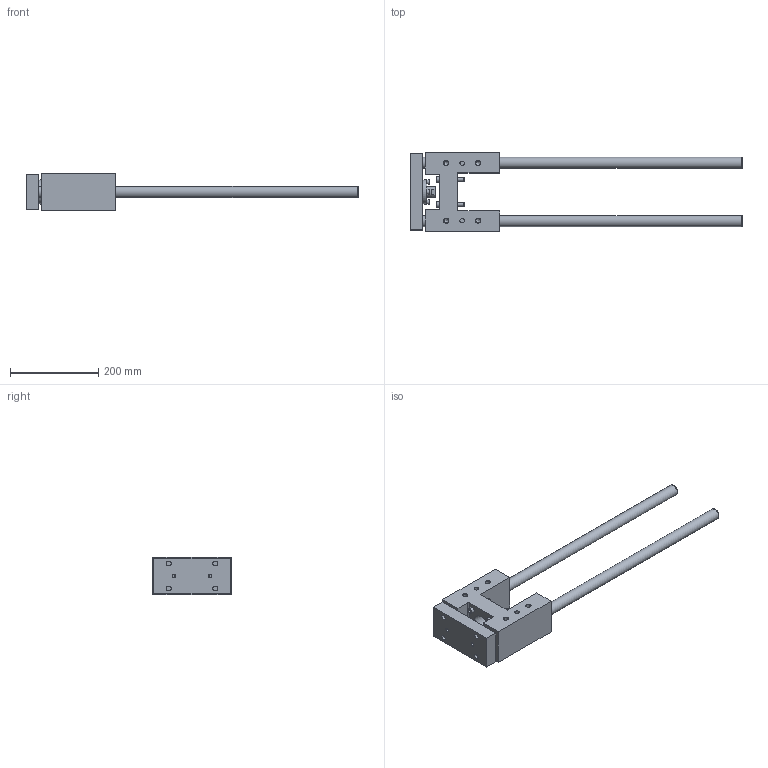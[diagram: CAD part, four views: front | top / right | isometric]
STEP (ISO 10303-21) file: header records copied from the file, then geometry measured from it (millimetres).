
FILE_DESCRIPTION( ( 'STEP AP214' ), '1' );
FILE_NAME( 'U:/Etudes/Top Solid/BIBLIO 3D AVM/TOP/PNEUMATIQUE/GUIDAGES/Type 32 (en H)/R_Renforcée/327R8_30.step', '2005-05-27T09:07:23', ( ' ' ), ( ' ' ), 'XStep 1.0', ' ', ' ' );
FILE_SCHEMA( ( 'automotive_design' ) );
Length unit declared in the file: metre
Products named in the file (2): 1; 2
Bounding box: 751 x 178 x 85 mm (x, y, z)
Volume: 2505474.5 mm3; surface area: 333305.6 mm2
Topology: 2 solids, 7 shells, 209 faces, 484 edges, 321 vertices
Faces by surface type: plane 118, cylinder 70, cone 21
Full cylindrical faces by diameter (mm): 6 x8, 6.5 x4, 8 x10, 8.376 x4, 9 x4, 10 x6, 10.106 x8, 11 x4, 13 x4, 14.376 x2, 18 x4, 24 x1, 25 x4, 26 x1, 34 x1, 37 x1, 45 x1, 55 x1
Entity records: 7089 total; most frequent: CARTESIAN_POINT 1103, DIRECTION 900, ORIENTED_EDGE 696, EDGE_LOOP 358, AXIS2_PLACEMENT_3D 349, EDGE_CURVE 348, VERTEX_POINT 280, FACE_OUTER_BOUND 277
